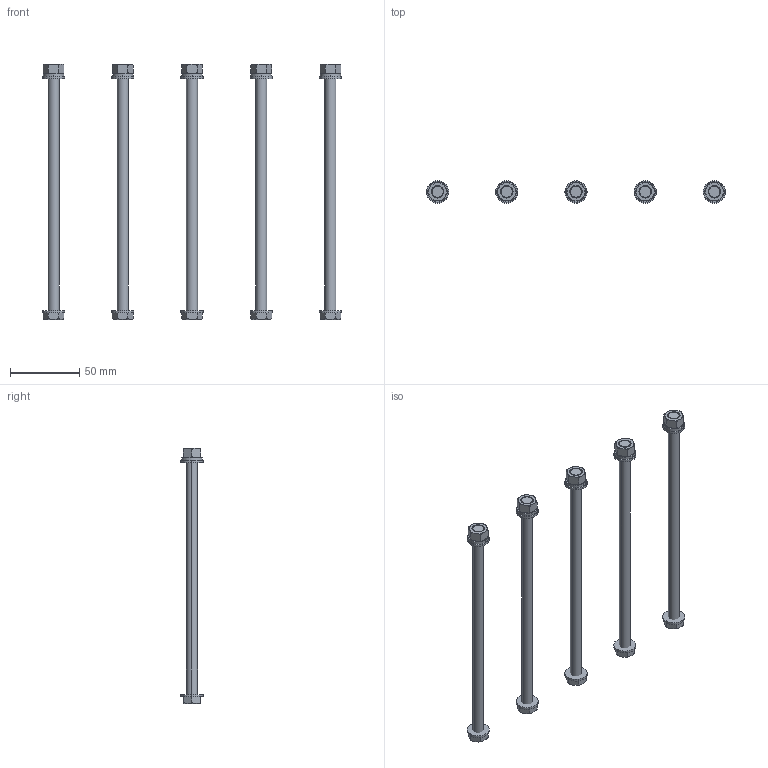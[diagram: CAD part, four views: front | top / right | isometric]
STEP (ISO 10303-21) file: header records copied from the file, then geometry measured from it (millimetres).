
FILE_DESCRIPTION(('CAx-IF Rec.Pracs.---Model Styling and Organization---1.2---2011-12-15','CAx-IF Rec.Pracs.---Geometric and Assembly Validation Properties---4.1---2014-06-16','CAx-IF Rec.Pracs.---PMI Polyline Presentation---2.0---2013-05-24'),'2;1');
FILE_NAME('R5BBMMW180.stp','2021-05-06T03:15:28+03:00',(''),(''),'STEP Interface 4.4 by CT CoreTechnologie','3D_Evolution4.4 by CT CoreTechnologie','');
FILE_SCHEMA(('AUTOMOTIVE_DESIGN { 1 0 10303 214 1 1 1 1 }'));
Length unit declared in the file: millimetre
Products named in the file (5): R5BBMMW180; M8õ180 DIN 933 AISI 304_straight; 8 DIN 125 A Zinc; 8 DIN 127 B Zinc; M8 DIN 934 AISI 316L_straight
Assembly tree (25 placements, depth 2):
  R5BBMMW180
    M8õ180 DIN 933 AISI 304_straight  x5
    8 DIN 125 A Zinc  x10
    8 DIN 127 B Zinc  x5
    M8 DIN 934 AISI 316L_straight  x5
Bounding box: 216 x 16 x 184.5 mm (x, y, z)
Surface area: 35727.2 mm2 (no closed solid volume)
Topology: 0 solids, 30 shells, 255 faces, 520 edges, 330 vertices
Faces by surface type: plane 135, bspline 60, cylinder 60
Entity records: 2374 total; most frequent: CARTESIAN_POINT 797, DIRECTION 246, ORIENTED_EDGE 196, AXIS2_PLACEMENT_3D 105, EDGE_CURVE 98, VERTEX_POINT 62, REPRESENTATION 60, PROPERTY_DEFINITION 60
